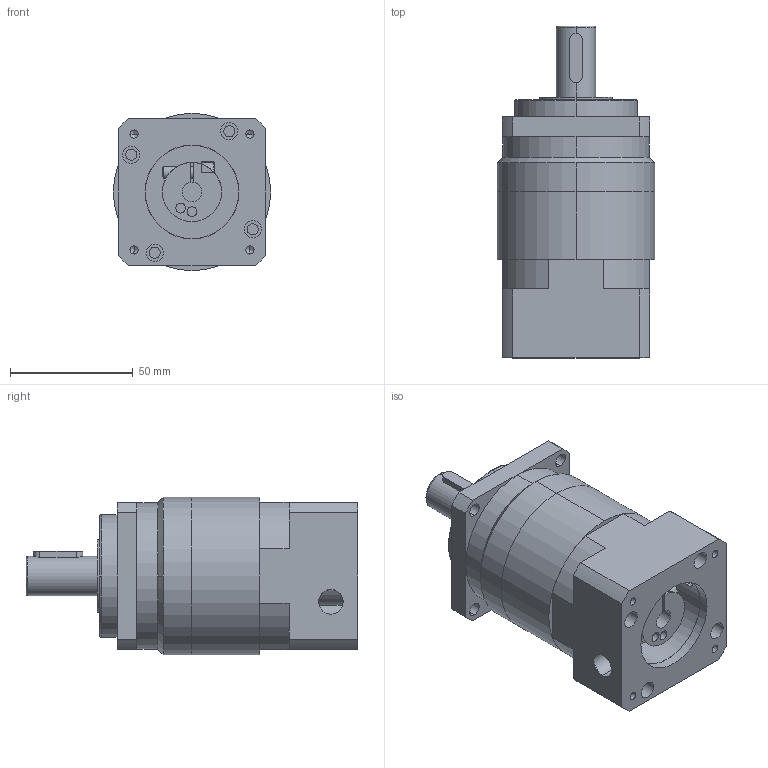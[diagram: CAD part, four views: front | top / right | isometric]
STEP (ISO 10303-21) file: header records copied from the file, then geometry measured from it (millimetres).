
FILE_DESCRIPTION (( 'STEP AP203' ), '1' );
FILE_NAME ('PLM060-L2-8-38.1-66.7.STEP', '2022-07-04T09:33:23', ( 'Windows User' ), ( 'P R C' ), 'SwSTEP 2.0', 'SolidWorks 2016', '' );
FILE_SCHEMA (( 'CONFIG_CONTROL_DESIGN' ));
Length unit declared in the file: millimetre
Products named in the file (6): PLM060俋倛芞奻裔啣_72T; PLM060俋倛芞狟裔啣-8-38.1-M4-66.7; 邧埴瑩 5x5x20; PLM060外形图二级齿圈_72T; 囀鞠褒蹟佪-M5℅16; PLM060-L2-8-38.1-66.7
Assembly tree (5 placements, depth 2):
  PLM060-L2-8-38.1-66.7
    PLM060俋倛芞奻裔啣_72T
    PLM060俋倛芞狟裔啣-8-38.1-M4-66.7
    邧埴瑩 5x5x20
    PLM060外形图二级齿圈_72T
    囀鞠褒蹟佪-M5℅16
Bounding box: 64 x 135 x 64 mm (x, y, z)
Volume: 312285.4 mm3; surface area: 57820.1 mm2
Topology: 5 solids, 5 shells, 800 faces, 2089 edges, 1375 vertices
Faces by surface type: plane 464, bspline 192, cylinder 112, cone 24, torus 8
Entity records: 33901 total; most frequent: CARTESIAN_POINT 14736, ORIENTED_EDGE 4142, DIRECTION 3157, EDGE_CURVE 2071, VECTOR 1421, LINE 1421, VERTEX_POINT 1375, EDGE_LOOP 918
